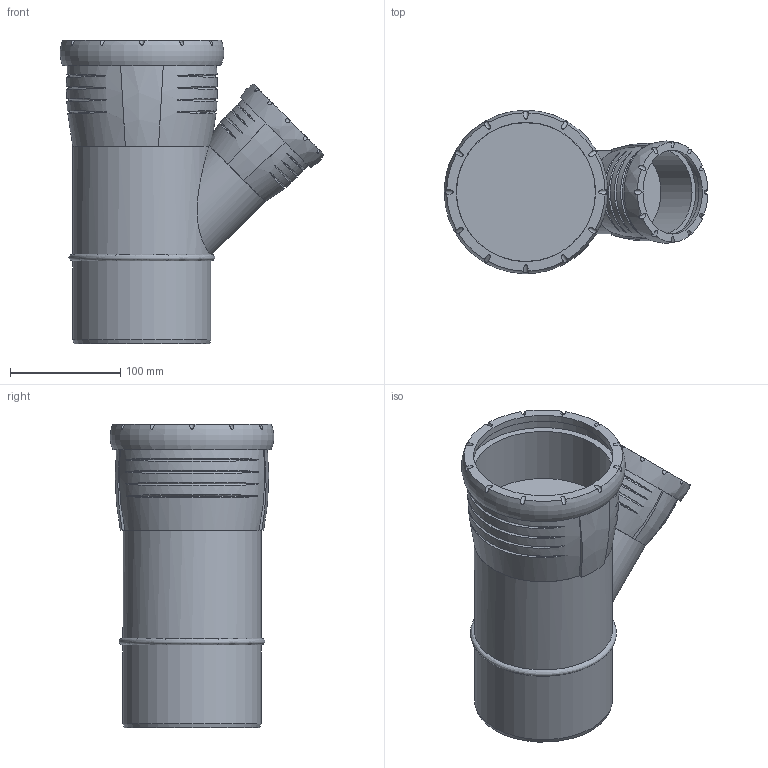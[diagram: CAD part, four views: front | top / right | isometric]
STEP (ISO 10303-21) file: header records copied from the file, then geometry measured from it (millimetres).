
FILE_DESCRIPTION(/* description */ (''),/* implementation_level */ '2;1');
FILE_NAME(/* name */ 'H:\Geberit-Teile\Export\Abzweig PP\stp\393633.stp',/* time_stamp */ '2017-02-13T13:19:45+01:00',/* author */ ('seihe2'),/* organization */ (''),/* preprocessor_version */ 'ST-DEVELOPER v15.2',/* originating_system */ 'Autodesk Inventor 2014',/* authorisation */ '');
FILE_SCHEMA (('AUTOMOTIVE_DESIGN { 1 0 10303 214 3 1 1 }'));
Length unit declared in the file: millimetre
Products named in the file (1): 393633
Bounding box: 239.19 x 148.35 x 274.87 mm (x, y, z)
Volume: 2443862.3 mm3; surface area: 302065.4 mm2
Topology: 5 solids, 5 shells, 104 faces, 242 edges, 172 vertices
Faces by surface type: bspline 46, cylinder 37, plane 19, cone 1, torus 1
Full cylindrical faces by diameter (mm): 58.903 x1, 75.2 x1, 75.9 x1, 76.2 x1, 85 x1, 95.978 x1, 115.2 x1, 125.2 x3, 126 x1, 126.4 x1, 138.1 x1
Entity records: 7650 total; most frequent: CARTESIAN_POINT 5519, ORIENTED_EDGE 444, DIRECTION 314, EDGE_CURVE 221, VERTEX_POINT 166, AXIS2_PLACEMENT_3D 157, EDGE_LOOP 147, B_SPLINE_CURVE_WITH_KNOTS 122
